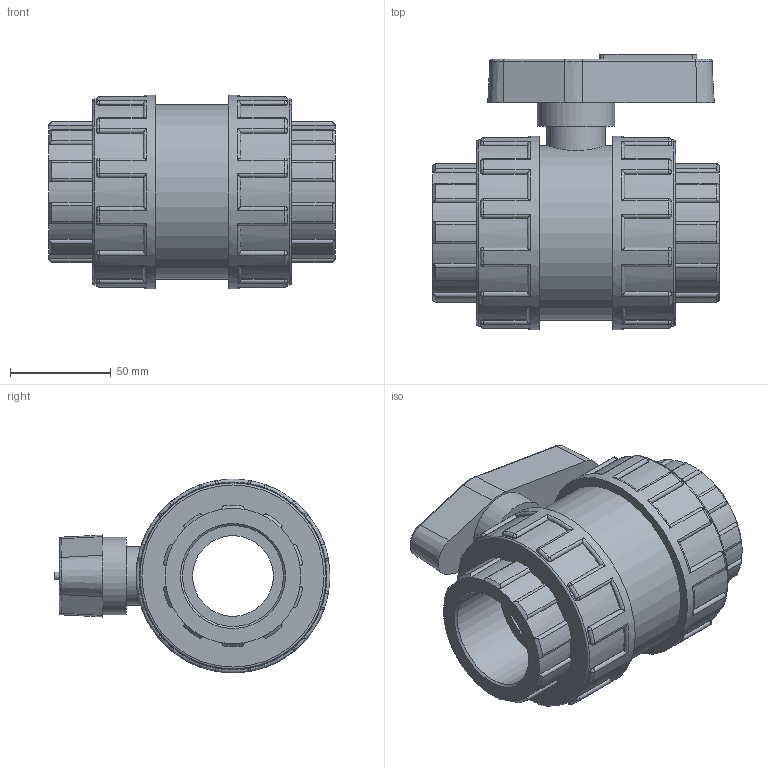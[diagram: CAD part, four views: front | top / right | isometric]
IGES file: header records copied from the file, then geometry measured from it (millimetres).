
Global section: file name: 11150050.ipt; native system: Autodesk Inventor 2015; preprocessor: unknown; author: KIM; date: 20171207.170218; units: millimetre
Bounding box: 142 x 136.58 x 96 mm (x, y, z)
Volume: 669120.3 mm3; surface area: 86042.2 mm2
Topology: 1 solids, 1 shells, 434 faces, 1085 edges, 662 vertices
Faces by surface type: cylinder 189, plane 114, revolution 59, sphere 48, cone 24
Full cylindrical faces by diameter (mm): 28.8 x1, 38.4 x1, 86.4 x1, 92.16 x2, 96 x2
